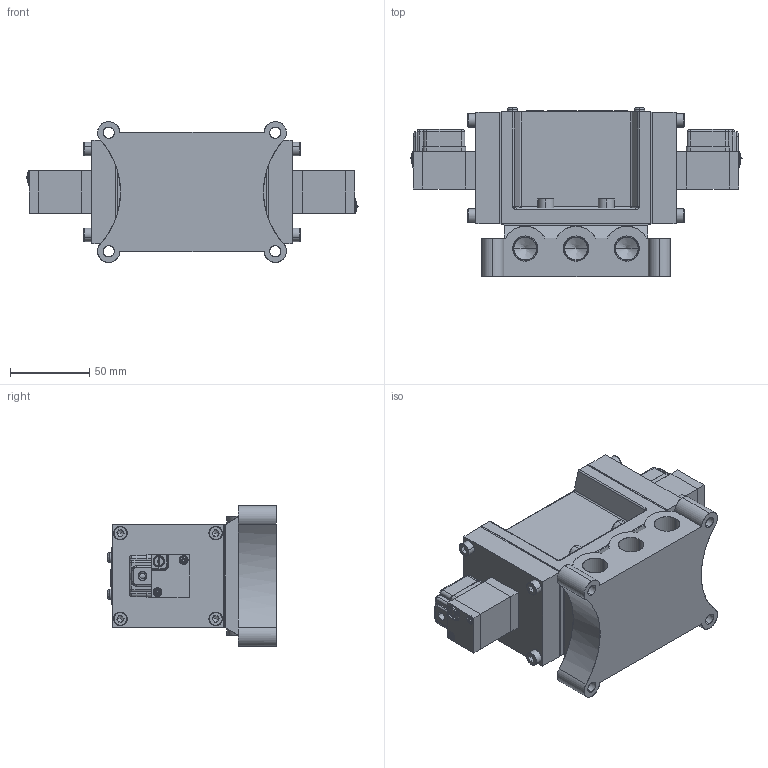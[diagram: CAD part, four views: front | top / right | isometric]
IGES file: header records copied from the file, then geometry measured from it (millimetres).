
Start section: SolidWorks IGES file using analytic representation for surfaces
Global section: file name: D:\Custom\3D繪製\PM\PM10\PMD2410#-03-#G#.IGS,1; native system: 5HSolidWorks 2014; preprocessor: SolidWorks 2014; author: Chieh_Lu; date: 150912.104726; units: millimetre
Bounding box: 208.95 x 106.35 x 88.61 mm (x, y, z)
Surface area: 171330.3 mm2 (no closed solid volume)
Topology: 0 solids, 0 shells, 1142 faces, 12546 edges, 12490 vertices
Faces by surface type: bspline 692, revolution 450
